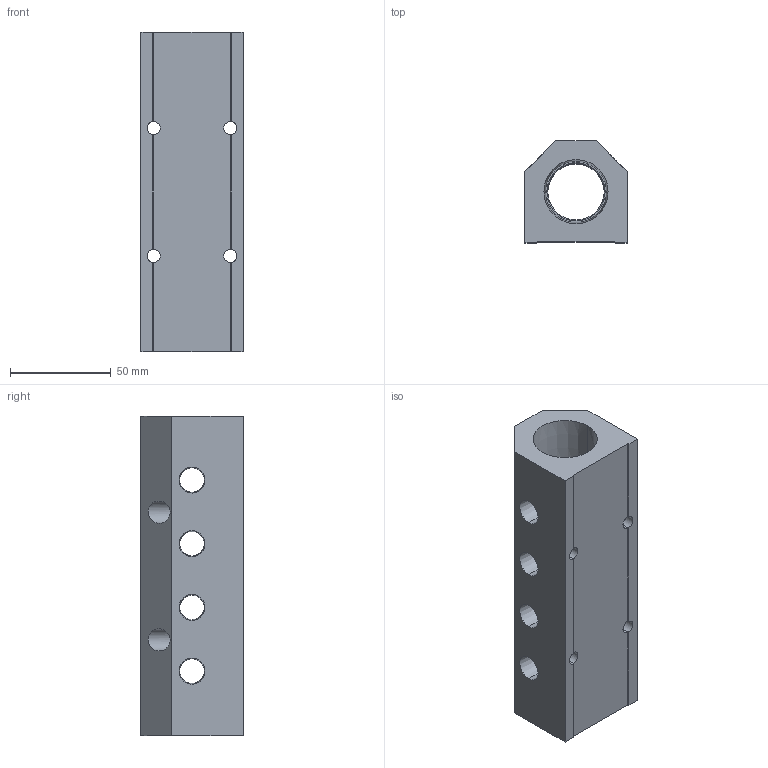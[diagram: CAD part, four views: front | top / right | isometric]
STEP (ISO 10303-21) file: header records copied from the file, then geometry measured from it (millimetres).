
FILE_DESCRIPTION (( 'STEP AP214' ), '1' );
FILE_NAME ('ALM4ACE-N4N16-159B.STEP', '2023-11-02T06:34:10', ( '' ), ( '' ), 'SwSTEP 2.0', 'SolidWorks 2020', '' );
FILE_SCHEMA (( 'AUTOMOTIVE_DESIGN' ));
Length unit declared in the file: millimetre
Products named in the file (1): ALM4ACE-N4N16-159B
Bounding box: 50.8 x 50.8 x 159 mm (x, y, z)
Volume: 239554.4 mm3; surface area: 53349.7 mm2
Topology: 1 solids, 1 shells, 327 faces, 865 edges, 566 vertices
Faces by surface type: plane 225, bspline 48, cone 32, cylinder 22
Entity records: 17103 total; most frequent: CARTESIAN_POINT 6291, ORIENTED_EDGE 1730, DIRECTION 1357, EDGE_CURVE 865, VECTOR 661, LINE 661, VERTEX_POINT 566, EDGE_LOOP 387
